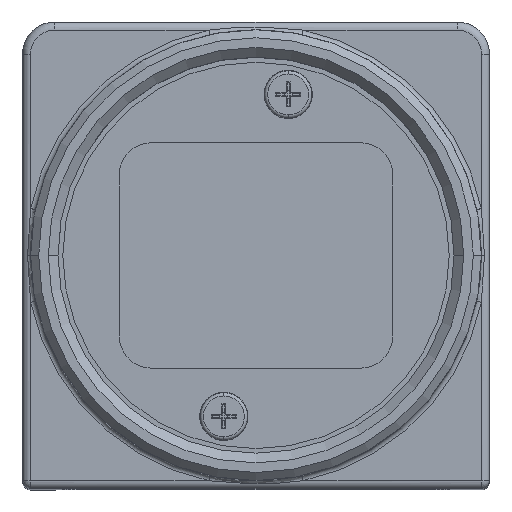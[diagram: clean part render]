
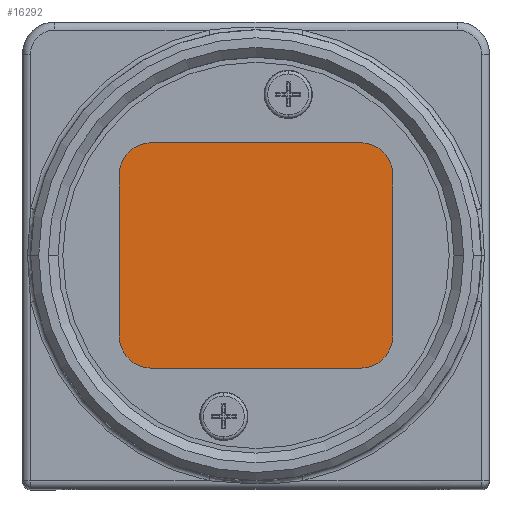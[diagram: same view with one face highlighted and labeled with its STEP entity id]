
A CAD part, top view. The second image highlights one B-rep face of the part: STEP entity #16292.
In plain terms, the highlighted planar face has unit normal (0, 0, 1).
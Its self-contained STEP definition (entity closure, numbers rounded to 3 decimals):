
#3528=CARTESIAN_POINT('',(8.,19.5,0.9));
#3529=DIRECTION('',(0.,0.,1.));
#3530=DIRECTION('',(0.,1.,0.));
#3531=AXIS2_PLACEMENT_3D('',#3528,#3529,#3530);
#3533=CARTESIAN_POINT('',(21.,19.5,0.9));
#3534=DIRECTION('',(0.,0.,1.));
#3535=DIRECTION('',(1.,0.,0.));
#3536=AXIS2_PLACEMENT_3D('',#3533,#3534,#3535);
#3538=DIRECTION('',(0.,1.,0.));
#3539=VECTOR('',#3538,10.);
#3540=CARTESIAN_POINT('',(23.,9.5,0.9));
#3541=LINE('',#3540,#3539);
#3542=CARTESIAN_POINT('',(21.,9.5,0.9));
#3543=DIRECTION('',(0.,0.,1.));
#3544=DIRECTION('',(0.,-1.,0.));
#3545=AXIS2_PLACEMENT_3D('',#3542,#3543,#3544);
#3547=CARTESIAN_POINT('',(8.,9.5,0.9));
#3548=DIRECTION('',(0.,0.,1.));
#3549=DIRECTION('',(-1.,0.,0.));
#3550=AXIS2_PLACEMENT_3D('',#3547,#3548,#3549);
#3560=DIRECTION('',(0.,1.,0.));
#3561=VECTOR('',#3560,10.);
#3562=CARTESIAN_POINT('',(6.,9.5,0.9));
#3563=LINE('',#3562,#3561);
#3576=DIRECTION('',(-1.,0.,0.));
#3577=VECTOR('',#3576,13.);
#3578=CARTESIAN_POINT('',(21.,7.5,0.9));
#3579=LINE('',#3578,#3577);
#3596=DIRECTION('',(-1.,0.,0.));
#3597=VECTOR('',#3596,13.);
#3598=CARTESIAN_POINT('',(21.,21.5,0.9));
#3599=LINE('',#3598,#3597);
#9398=CARTESIAN_POINT('',(23.,19.5,0.9));
#9399=VERTEX_POINT('',#9398);
#9400=CARTESIAN_POINT('',(23.,9.5,0.9));
#9401=VERTEX_POINT('',#9400);
#9402=CARTESIAN_POINT('',(21.,21.5,0.9));
#9403=VERTEX_POINT('',#9402);
#9404=CARTESIAN_POINT('',(8.,21.5,0.9));
#9405=VERTEX_POINT('',#9404);
#9406=CARTESIAN_POINT('',(6.,19.5,0.9));
#9407=VERTEX_POINT('',#9406);
#9408=CARTESIAN_POINT('',(6.,9.5,0.9));
#9409=VERTEX_POINT('',#9408);
#9410=CARTESIAN_POINT('',(8.,7.5,0.9));
#9411=VERTEX_POINT('',#9410);
#9412=CARTESIAN_POINT('',(21.,7.5,0.9));
#9413=VERTEX_POINT('',#9412);
#16271=CARTESIAN_POINT('',(14.5,14.5,0.9));
#16272=DIRECTION('',(0.,0.,1.));
#16273=DIRECTION('',(1.,0.,0.));
#16274=AXIS2_PLACEMENT_3D('',#16271,#16272,#16273);
#16275=PLANE('',#16274);
#16277=ORIENTED_EDGE('',*,*,#16276,.F.);
#16279=ORIENTED_EDGE('',*,*,#16278,.F.);
#16280=ORIENTED_EDGE('',*,*,#16255,.F.);
#16281=ORIENTED_EDGE('',*,*,#16238,.F.);
#16283=ORIENTED_EDGE('',*,*,#16282,.F.);
#16285=ORIENTED_EDGE('',*,*,#16284,.T.);
#16287=ORIENTED_EDGE('',*,*,#16286,.F.);
#16289=ORIENTED_EDGE('',*,*,#16288,.T.);
#16290=EDGE_LOOP('',(#16277,#16279,#16280,#16281,#16283,#16285,#16287,#16289));
#16291=FACE_OUTER_BOUND('',#16290,.F.);
#3532=CIRCLE('',#3531,2.);
#3537=CIRCLE('',#3536,2.);
#3546=CIRCLE('',#3545,2.);
#3551=CIRCLE('',#3550,2.);
#16238=EDGE_CURVE('',#9401,#9399,#3541,.T.);
#16255=EDGE_CURVE('',#9399,#9403,#3537,.T.);
#16276=EDGE_CURVE('',#9405,#9407,#3532,.T.);
#16278=EDGE_CURVE('',#9403,#9405,#3599,.T.);
#16282=EDGE_CURVE('',#9413,#9401,#3546,.T.);
#16284=EDGE_CURVE('',#9413,#9411,#3579,.T.);
#16286=EDGE_CURVE('',#9409,#9411,#3551,.T.);
#16288=EDGE_CURVE('',#9409,#9407,#3563,.T.);
#16292=ADVANCED_FACE('',(#16291),#16275,.T.);
